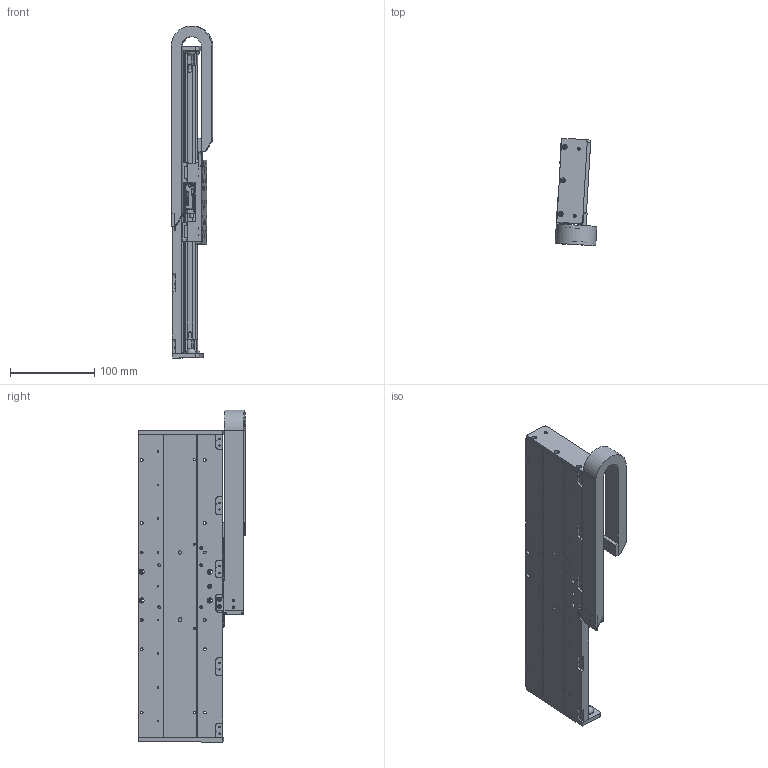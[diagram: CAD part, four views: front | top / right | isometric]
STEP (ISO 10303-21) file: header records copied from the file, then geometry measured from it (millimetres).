
FILE_DESCRIPTION(/* description */ ('MSR100 BASE'),/* implementation_level */ '2;1');
FILE_NAME(/* name */ 'I:\FY15 Projects\MSR\MSR100\Web Step Models\mSR100L-250XLSXXXXXXCM13.stp',/* time_stamp */ '2015-02-18T13:15:08-05:00',/* author */ ('BF20108'),/* organization */ (''),/* preprocessor_version */ 'ST-DEVELOPER v15.2',/* originating_system */ 'Autodesk Inventor 2014',/* authorisation */ '');
FILE_SCHEMA (('AUTOMOTIVE_DESIGN { 1 0 10303 214 3 1 1 }'));
Products named in the file (17): 102-5710-06; 003-3562-38; 102-5702-05; ml18-120m-n; 102-5703-01; 102-5705-01; 002-3740-06; 102-5701; 003-3561; ML18-3E; 003-5000; 002-3740-short-carriage-assy; mx100-mcb; mx100-scb; e045-16-018-carrier-05; 002-3740-cbl-carr-sc-05; 002-3740
Bounding box: 49.52 x 127.65 x 394.12 mm (x, y, z)
Volume: 656479.9 mm3; surface area: 315768.8 mm2
Topology: 24 solids, 25 shells, 2564 faces, 6913 edges, 4449 vertices
Faces by surface type: plane 1308, cylinder 929, cone 171, torus 144, bspline 8, sphere 4
Full cylindrical faces by diameter (mm): 0.5 x8, 1 x4, 1.567 x81, 1.588 x2, 2.007 x12, 2.013 x13, 2.135 x4, 2.4 x48, 2.459 x22, 2.5 x20, 2.642 x4, 2.75 x1, 3 x23, 3.242 x15, 3.4 x26, 3.505 x4, 4 x4, 4.17 x2, 4.2 x49, 4.5 x18, 5 x8, 5.08 x2, 6 x30, 11.176 x4
Entity records: 51104 total; most frequent: CARTESIAN_POINT 9625, DIRECTION 8530, ORIENTED_EDGE 7952, EDGE_CURVE 3964, AXIS2_PLACEMENT_3D 2980, VERTEX_POINT 2795, LINE 2570, VECTOR 2570
